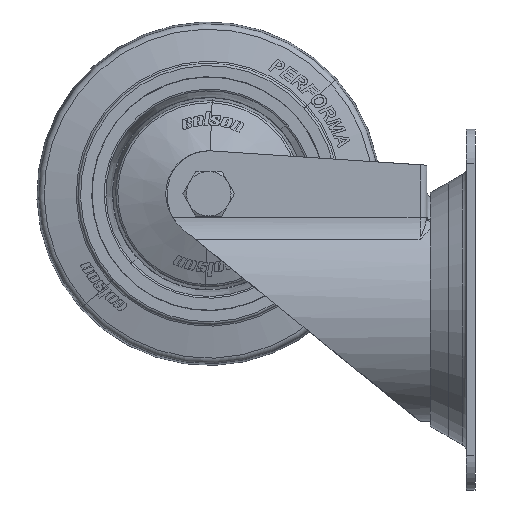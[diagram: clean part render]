
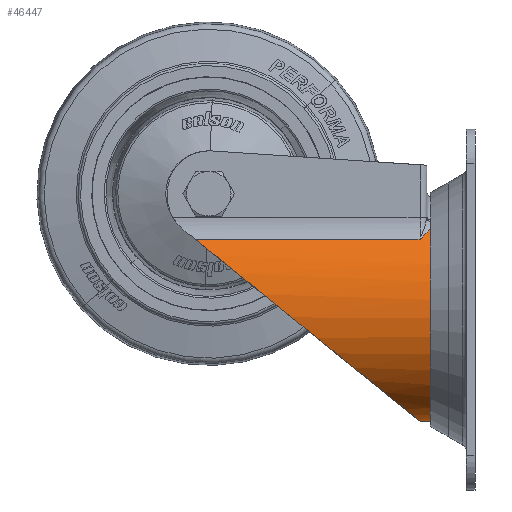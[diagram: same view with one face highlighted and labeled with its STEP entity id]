
A CAD part, left-side view. The second image highlights one B-rep face of the part: STEP entity #46447.
In plain terms, the highlighted cylindrical face has radius 32.5 mm (diameter 65 mm), a partial arc.
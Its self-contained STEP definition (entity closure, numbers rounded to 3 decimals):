
#1075 = CARTESIAN_POINT ( 'NONE',  ( -20.257, 6.024, 25.417 ) ) ;
#1485 = AXIS2_PLACEMENT_3D ( 'NONE', #47737, #6166, #89809 ) ;
#1893 = DIRECTION ( 'NONE',  ( 0., -1., 0. ) ) ;
#1920 = CARTESIAN_POINT ( 'NONE',  ( -25.235, 2., 20.48 ) ) ;
#2807 = CARTESIAN_POINT ( 'NONE',  ( 0., 10., -32.5 ) ) ;
#4476 = EDGE_CURVE ( 'NONE', #90042, #63407, #74836, .T. ) ;
#6166 = DIRECTION ( 'NONE',  ( 0., 1., 0. ) ) ;
#6705 = CARTESIAN_POINT ( 'NONE',  ( -24.585, 9.161, 21.258 ) ) ;
#6880 = VERTEX_POINT ( 'NONE', #2807 ) ;
#7176 = CARTESIAN_POINT ( 'NONE',  ( -19.783, 6., 25.786 ) ) ;
#14265 = CARTESIAN_POINT ( 'NONE',  ( -31.549, 10., -32.5 ) ) ;
#14992 = EDGE_CURVE ( 'NONE', #33853, #83629, #29504, .T. ) ;
#19374 = DIRECTION ( 'NONE',  ( 0., -1., 0. ) ) ;
#19450 = ORIENTED_EDGE ( 'NONE', *, *, #50921, .T. ) ;
#21275 = CARTESIAN_POINT ( 'NONE',  ( -25.235, 75.412, 20.48 ) ) ;
#27054 = CARTESIAN_POINT ( 'NONE',  ( -21.695, 6.513, 24.2 ) ) ;
#29111 = CARTESIAN_POINT ( 'NONE',  ( -25.075, 9.788, 20.677 ) ) ;
#29504 = B_SPLINE_CURVE_WITH_KNOTS ( 'NONE', 3,
 ( #7176, #83533, #1075, #42390 ),
 .UNSPECIFIED., .F., .F.,
 ( 4, 4 ),
 ( 0., 0.001 ),
 .UNSPECIFIED. ) ;
#30890 = CARTESIAN_POINT ( 'NONE',  ( -25.235, 75.412, 20.48 ) ) ;
#32774 = CARTESIAN_POINT ( 'NONE',  ( 0., 6., -32.5 ) ) ;
#33853 = VERTEX_POINT ( 'NONE', #59781 ) ;
#33980 = EDGE_LOOP ( 'NONE', ( #55831, #19450, #50988, #56472, #39199, #63494 ) ) ;
#35572 = CARTESIAN_POINT ( 'NONE',  ( -25.235, 10., 20.48 ) ) ;
#35652 = VERTEX_POINT ( 'NONE', #32774 ) ;
#36152 = CARTESIAN_POINT ( 'NONE',  ( -25.235, 10., 20.48 ) ) ;
#37810 = VECTOR ( 'NONE', #71262, 1000. ) ;
#39199 = ORIENTED_EDGE ( 'NONE', *, *, #52271, .T. ) ;
#40325 = CARTESIAN_POINT ( 'NONE',  ( 0., 2., 0. ) ) ;
#41870 = FACE_OUTER_BOUND ( 'NONE', #33980, .T. ) ;
#42387 = CARTESIAN_POINT ( 'NONE',  ( -20.488, 6.071, 25.229 ) ) ;
#42390 = CARTESIAN_POINT ( 'NONE',  ( -20.488, 6.071, 25.229 ) ) ;
#42508 = CARTESIAN_POINT ( 'NONE',  ( -24.914, 9.579, 20.871 ) ) ;
#43492 = CARTESIAN_POINT ( 'NONE',  ( 0., 2., -32.5 ) ) ;
#46447 = ADVANCED_FACE ( 'NONE', ( #41870 ), #75640, .T. ) ;
#47737 = CARTESIAN_POINT ( 'NONE',  ( 0., 6., 0. ) ) ;
#48285 = CARTESIAN_POINT ( 'NONE',  ( -24.417, 8.954, 21.451 ) ) ;
#48880 = CARTESIAN_POINT ( 'NONE',  ( -23.539, 7.951, 22.416 ) ) ;
#50921 = EDGE_CURVE ( 'NONE', #6880, #35652, #66593, .T. ) ;
#50988 = ORIENTED_EDGE ( 'NONE', *, *, #76743, .T. ) ;
#52271 = EDGE_CURVE ( 'NONE', #83629, #90042, #70973, .T. ) ;
#55306 = CARTESIAN_POINT ( 'NONE',  ( -21.467, 6.395, 24.403 ) ) ;
#55831 = ORIENTED_EDGE ( 'NONE', *, *, #64556, .F. ) ;
#56472 = ORIENTED_EDGE ( 'NONE', *, *, #14992, .T. ) ;
#59781 = CARTESIAN_POINT ( 'NONE',  ( -19.783, 6., 25.786 ) ) ;
#60248 = CIRCLE ( 'NONE', #1485, 32.5 ) ;
#61612 = DIRECTION ( 'NONE',  ( 0., 0., -1. ) ) ;
#62602 = CARTESIAN_POINT ( 'NONE',  ( -22.765, 7.232, 23.201 ) ) ;
#63241 = CARTESIAN_POINT ( 'NONE',  ( 0., 10., -32.5 ) ) ;
#63407 = VERTEX_POINT ( 'NONE', #30890 ) ;
#63494 = ORIENTED_EDGE ( 'NONE', *, *, #4476, .T. ) ;
#64556 = EDGE_CURVE ( 'NONE', #6880, #63407, #80569, .T. ) ;
#66593 = LINE ( 'NONE', #43492, #75314 ) ;
#68771 = CARTESIAN_POINT ( 'NONE',  ( -20.742, 6.122, 25.023 ) ) ;
#70973 = B_SPLINE_CURVE_WITH_KNOTS ( 'NONE', 3,
 ( #83051, #68771, #75469, #55306, #27054, #89477, #62602, #48880, #90057, #48285, #6705, #42508, #29111, #36152 ),
 .UNSPECIFIED., .F., .F.,
 ( 4, 2, 2, 2, 2, 2, 4 ),
 ( 0., 0.001, 0.002, 0.004, 0.006, 0.007, 0.008 ),
 .UNSPECIFIED. ) ;
#71262 = DIRECTION ( 'NONE',  ( 0., 1., 0. ) ) ;
#74836 = LINE ( 'NONE', #1920, #37810 ) ;
#75314 = VECTOR ( 'NONE', #1893, 1000. ) ;
#75469 = CARTESIAN_POINT ( 'NONE',  ( -20.989, 6.2, 24.815 ) ) ;
#75640 = CYLINDRICAL_SURFACE ( 'NONE', #85061, 32.5 ) ;
#76743 = EDGE_CURVE ( 'NONE', #35652, #33853, #60248, .T. ) ;
#77267 = CARTESIAN_POINT ( 'NONE',  ( -45.116, 45.166, -4.017 ) ) ;
#80569 =( BOUNDED_CURVE ( )  B_SPLINE_CURVE ( 3, ( #63241, #14265, #77267, #21275 ),
 .UNSPECIFIED., .F., .F. ) 
 B_SPLINE_CURVE_WITH_KNOTS ( ( 4, 4 ),
 ( 0., 2.253 ),
 .UNSPECIFIED. ) 
 CURVE ( )  GEOMETRIC_REPRESENTATION_ITEM ( )  RATIONAL_B_SPLINE_CURVE ( ( 1., 0.62, 0.62, 1. ) ) 
 REPRESENTATION_ITEM ( '' )  );
#83051 = CARTESIAN_POINT ( 'NONE',  ( -20.488, 6.071, 25.229 ) ) ;
#83533 = CARTESIAN_POINT ( 'NONE',  ( -20.022, 6., 25.602 ) ) ;
#83629 = VERTEX_POINT ( 'NONE', #42387 ) ;
#85061 = AXIS2_PLACEMENT_3D ( 'NONE', #40325, #19374, #61612 ) ;
#89477 = CARTESIAN_POINT ( 'NONE',  ( -22.357, 6.909, 23.596 ) ) ;
#89809 = DIRECTION ( 'NONE',  ( 0., 0., 1. ) ) ;
#90042 = VERTEX_POINT ( 'NONE', #35572 ) ;
#90057 = CARTESIAN_POINT ( 'NONE',  ( -23.9, 8.344, 22.029 ) ) ;
